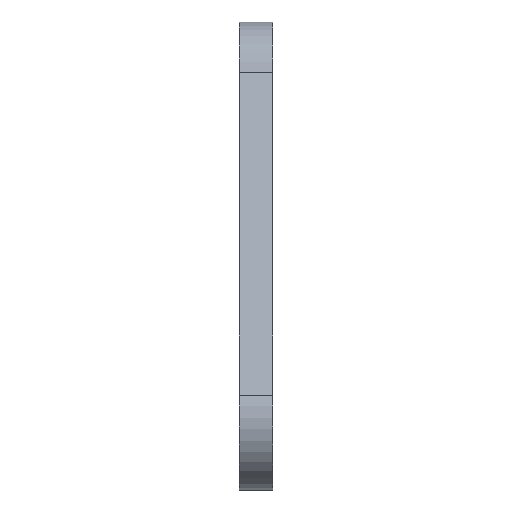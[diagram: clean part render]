
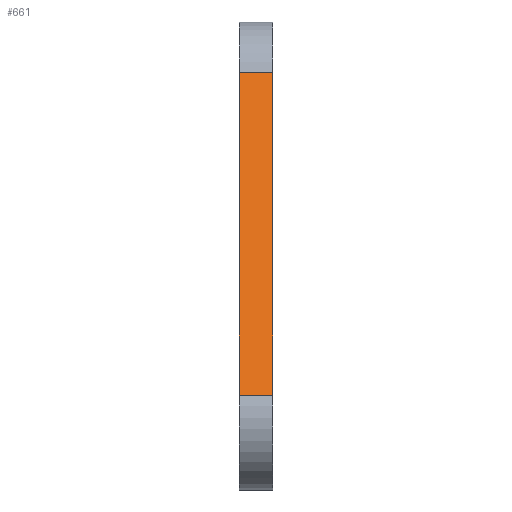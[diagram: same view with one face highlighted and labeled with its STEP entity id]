
A CAD part, top view. The second image highlights one B-rep face of the part: STEP entity #661.
In plain terms, the highlighted planar face has unit normal (0, 0.342, 0.94).
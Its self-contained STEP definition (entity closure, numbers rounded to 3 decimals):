
#32=PLANE('',#760);
#65=FACE_OUTER_BOUND('',#104,.T.);
#104=EDGE_LOOP('',(#561,#562,#563,#564));
#128=LINE('',#1040,#172);
#153=LINE('',#1168,#197);
#154=LINE('',#1171,#198);
#155=LINE('',#1172,#199);
#172=VECTOR('',#820,10.);
#197=VECTOR('',#969,10.);
#198=VECTOR('',#972,10.);
#199=VECTOR('',#973,10.);
#273=VERTEX_POINT('',#1037);
#274=VERTEX_POINT('',#1039);
#315=VERTEX_POINT('',#1166);
#316=VERTEX_POINT('',#1170);
#343=EDGE_CURVE('',#273,#274,#128,.T.);
#408=EDGE_CURVE('',#315,#274,#153,.T.);
#409=EDGE_CURVE('',#315,#316,#154,.T.);
#410=EDGE_CURVE('',#316,#273,#155,.T.);
#561=ORIENTED_EDGE('',*,*,#409,.F.);
#562=ORIENTED_EDGE('',*,*,#408,.T.);
#563=ORIENTED_EDGE('',*,*,#343,.F.);
#564=ORIENTED_EDGE('',*,*,#410,.F.);
#661=ADVANCED_FACE('',(#65),#32,.T.);
#760=AXIS2_PLACEMENT_3D('',#1169,#970,#971);
#820=DIRECTION('',(0.,0.94,-0.342));
#969=DIRECTION('',(-1.,0.,0.));
#970=DIRECTION('center_axis',(0.,0.342,0.94));
#971=DIRECTION('ref_axis',(0.,0.94,-0.342));
#972=DIRECTION('',(0.,-0.94,0.342));
#973=DIRECTION('',(-1.,0.,0.));
#1037=CARTESIAN_POINT('',(11.551,10.06,76.126));
#1039=CARTESIAN_POINT('',(11.551,24.547,70.854));
#1040=CARTESIAN_POINT('',(11.551,24.853,70.742));
#1166=CARTESIAN_POINT('',(13.051,24.547,70.854));
#1168=CARTESIAN_POINT('',(13.051,24.547,70.854));
#1169=CARTESIAN_POINT('Origin',(13.051,10.06,76.126));
#1170=CARTESIAN_POINT('',(13.051,10.06,76.126));
#1171=CARTESIAN_POINT('',(13.051,24.853,70.742));
#1172=CARTESIAN_POINT('',(13.051,10.06,76.126));
